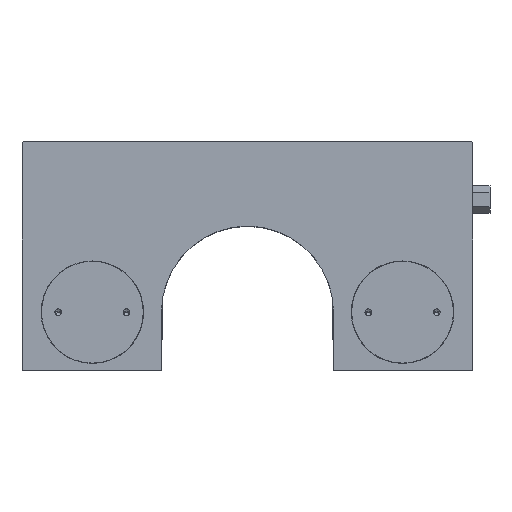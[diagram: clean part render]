
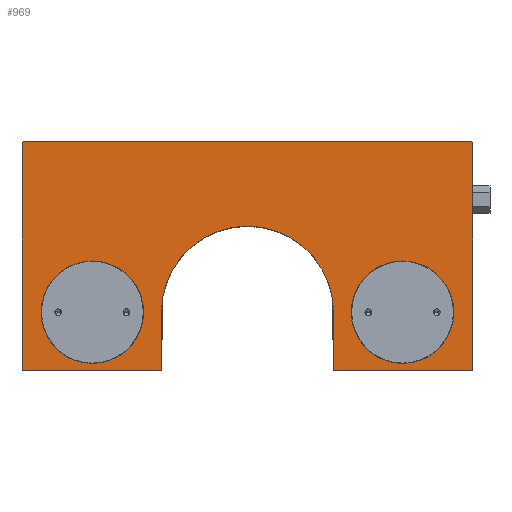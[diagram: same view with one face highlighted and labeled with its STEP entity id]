
A CAD part, top view. The second image highlights one B-rep face of the part: STEP entity #969.
In plain terms, the highlighted planar face has unit normal (0, 0, 1).
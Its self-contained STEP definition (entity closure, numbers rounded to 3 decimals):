
#947 = VERTEX_POINT( '', #2698 );
#969 = ADVANCED_FACE( '', ( #2723, #2724, #2725 ), #2726, .F. );
#1003 = VERTEX_POINT( '', #2768 );
#1075 = EDGE_CURVE( '', #1841, #1003, #2849, .T. );
#1089 = EDGE_CURVE( '', #2073, #1595, #2865, .T. );
#1149 = EDGE_CURVE( '', #1499, #1523, #2932, .T. );
#1225 = VERTEX_POINT( '', #3015 );
#1261 = VERTEX_POINT( '', #3055 );
#1317 = EDGE_CURVE( '', #1003, #1225, #3115, .T. );
#1447 = EDGE_CURVE( '', #947, #2073, #3262, .T. );
#1499 = VERTEX_POINT( '', #3326 );
#1523 = VERTEX_POINT( '', #3355 );
#1539 = EDGE_CURVE( '', #1225, #1603, #3372, .T. );
#1559 = EDGE_CURVE( '', #2081, #1841, #3394, .T. );
#1595 = VERTEX_POINT( '', #3434 );
#1603 = VERTEX_POINT( '', #3442 );
#1631 = EDGE_CURVE( '', #1523, #1499, #3471, .T. );
#1649 = EDGE_CURVE( '', #1603, #2361, #3490, .T. );
#1841 = VERTEX_POINT( '', #3703 );
#1953 = VERTEX_POINT( '', #3835 );
#2001 = VERTEX_POINT( '', #3885 );
#2067 = EDGE_CURVE( '', #2001, #947, #3963, .T. );
#2073 = VERTEX_POINT( '', #3969 );
#2081 = VERTEX_POINT( '', #3977 );
#2093 = EDGE_CURVE( '', #2361, #2001, #3989, .T. );
#2139 = EDGE_CURVE( '', #1595, #2081, #4043, .T. );
#2319 = EDGE_CURVE( '', #1953, #1261, #4239, .T. );
#2351 = EDGE_CURVE( '', #1261, #1953, #4275, .T. );
#2361 = VERTEX_POINT( '', #4287 );
#2698 = CARTESIAN_POINT( '', ( -25.2, 17., 24.5 ) );
#2723 = FACE_BOUND( '', #4697, .T. );
#2724 = FACE_BOUND( '', #4698, .T. );
#2725 = FACE_OUTER_BOUND( '', #4699, .T. );
#2726 = PLANE( '', #4700 );
#2768 = CARTESIAN_POINT( '', ( 65.6, 67., 24.5 ) );
#2849 = LINE( '', #4896, #4897 );
#2865 = LINE( '', #4916, #4917 );
#2932 = CIRCLE( '', #5011, 15. );
#3015 = CARTESIAN_POINT( '', ( 66., 66.6, 24.5 ) );
#3055 = CARTESIAN_POINT( '', ( 60.4, 17., 24.5 ) );
#3115 = LINE( '', #5284, #5285 );
#3262 = LINE( '', #5481, #5482 );
#3326 = CARTESIAN_POINT( '', ( -60.4, 17., 24.5 ) );
#3355 = CARTESIAN_POINT( '', ( -30.4, 17., 24.5 ) );
#3372 = LINE( '', #5625, #5626 );
#3394 = LINE( '', #5656, #5657 );
#3434 = CARTESIAN_POINT( '', ( -66., 0., 24.5 ) );
#3442 = CARTESIAN_POINT( '', ( 66., 0., 24.5 ) );
#3471 = CIRCLE( '', #5762, 15. );
#3490 = LINE( '', #5785, #5786 );
#3703 = CARTESIAN_POINT( '', ( -65.6, 67., 24.5 ) );
#3835 = CARTESIAN_POINT( '', ( 30.4, 17., 24.5 ) );
#3885 = CARTESIAN_POINT( '', ( 25.2, 17., 24.5 ) );
#3963 = CIRCLE( '', #6511, 25.2 );
#3969 = CARTESIAN_POINT( '', ( -25.2, 0., 24.5 ) );
#3977 = CARTESIAN_POINT( '', ( -66., 66.6, 24.5 ) );
#3989 = LINE( '', #6548, #6549 );
#4043 = LINE( '', #6616, #6617 );
#4239 = CIRCLE( '', #6911, 15. );
#4275 = CIRCLE( '', #6959, 15. );
#4287 = CARTESIAN_POINT( '', ( 25.2, 0., 24.5 ) );
#4697 = EDGE_LOOP( '', ( #7512, #7513 ) );
#4698 = EDGE_LOOP( '', ( #7514, #7515 ) );
#4699 = EDGE_LOOP( '', ( #7516, #7517, #7518, #7519, #7520, #7521, #7522, #7523, #7524, #7525 ) );
#4700 = AXIS2_PLACEMENT_3D( '', #7526, #7527, #7528 );
#4896 = CARTESIAN_POINT( '', ( -65.6, 67., 24.5 ) );
#4897 = VECTOR( '', #7673, 1. );
#4916 = CARTESIAN_POINT( '', ( -25.2, 0., 24.5 ) );
#4917 = VECTOR( '', #7691, 1. );
#5011 = AXIS2_PLACEMENT_3D( '', #7776, #7777, #7778 );
#5284 = CARTESIAN_POINT( '', ( 65.6, 67., 24.5 ) );
#5285 = VECTOR( '', #7994, 1. );
#5481 = CARTESIAN_POINT( '', ( -25.2, 17., 24.5 ) );
#5482 = VECTOR( '', #8163, 1. );
#5625 = CARTESIAN_POINT( '', ( 66., 66.6, 24.5 ) );
#5626 = VECTOR( '', #8329, 1. );
#5656 = CARTESIAN_POINT( '', ( -66., 66.6, 24.5 ) );
#5657 = VECTOR( '', #8352, 1. );
#5762 = AXIS2_PLACEMENT_3D( '', #8413, #8414, #8415 );
#5785 = CARTESIAN_POINT( '', ( 66., 0., 24.5 ) );
#5786 = VECTOR( '', #8428, 1. );
#6511 = AXIS2_PLACEMENT_3D( '', #8954, #8955, #8956 );
#6548 = CARTESIAN_POINT( '', ( 25.2, 0., 24.5 ) );
#6549 = VECTOR( '', #8967, 1. );
#6616 = CARTESIAN_POINT( '', ( -66., 0., 24.5 ) );
#6617 = VECTOR( '', #9035, 1. );
#6911 = AXIS2_PLACEMENT_3D( '', #9234, #9235, #9236 );
#6959 = AXIS2_PLACEMENT_3D( '', #9282, #9283, #9284 );
#7512 = ORIENTED_EDGE( '', *, *, #1631, .T. );
#7513 = ORIENTED_EDGE( '', *, *, #1149, .T. );
#7514 = ORIENTED_EDGE( '', *, *, #2351, .T. );
#7515 = ORIENTED_EDGE( '', *, *, #2319, .T. );
#7516 = ORIENTED_EDGE( '', *, *, #1649, .F. );
#7517 = ORIENTED_EDGE( '', *, *, #1539, .F. );
#7518 = ORIENTED_EDGE( '', *, *, #1317, .F. );
#7519 = ORIENTED_EDGE( '', *, *, #1075, .F. );
#7520 = ORIENTED_EDGE( '', *, *, #1559, .F. );
#7521 = ORIENTED_EDGE( '', *, *, #2139, .F. );
#7522 = ORIENTED_EDGE( '', *, *, #1089, .F. );
#7523 = ORIENTED_EDGE( '', *, *, #1447, .F. );
#7524 = ORIENTED_EDGE( '', *, *, #2067, .F. );
#7525 = ORIENTED_EDGE( '', *, *, #2093, .F. );
#7526 = CARTESIAN_POINT( '', ( 0., 0., 24.5 ) );
#7527 = DIRECTION( '', ( 0., 0., -1. ) );
#7528 = DIRECTION( '', ( -1., 0., 0. ) );
#7673 = DIRECTION( '', ( 1., 0., 0. ) );
#7691 = DIRECTION( '', ( -1., 0., 0. ) );
#7776 = CARTESIAN_POINT( '', ( -45.4, 17., 24.5 ) );
#7777 = DIRECTION( '', ( 0., 0., -1. ) );
#7778 = DIRECTION( '', ( -1., 0., 0. ) );
#7994 = DIRECTION( '', ( 0.707, -0.707, 0. ) );
#8163 = DIRECTION( '', ( 0., -1., 0. ) );
#8329 = DIRECTION( '', ( 0., -1., 0. ) );
#8352 = DIRECTION( '', ( 0.707, 0.707, 0. ) );
#8413 = CARTESIAN_POINT( '', ( -45.4, 17., 24.5 ) );
#8414 = DIRECTION( '', ( 0., 0., -1. ) );
#8415 = DIRECTION( '', ( -1., 0., 0. ) );
#8428 = DIRECTION( '', ( -1., 0., 0. ) );
#8954 = CARTESIAN_POINT( '', ( 0., 17., 24.5 ) );
#8955 = DIRECTION( '', ( 0., 0., 1. ) );
#8956 = DIRECTION( '', ( 1., 0., 0. ) );
#8967 = DIRECTION( '', ( 0., 1., 0. ) );
#9035 = DIRECTION( '', ( 0., 1., 0. ) );
#9234 = CARTESIAN_POINT( '', ( 45.4, 17., 24.5 ) );
#9235 = DIRECTION( '', ( 0., 0., -1. ) );
#9236 = DIRECTION( '', ( -1., 0., 0. ) );
#9282 = CARTESIAN_POINT( '', ( 45.4, 17., 24.5 ) );
#9283 = DIRECTION( '', ( 0., 0., -1. ) );
#9284 = DIRECTION( '', ( -1., 0., 0. ) );
